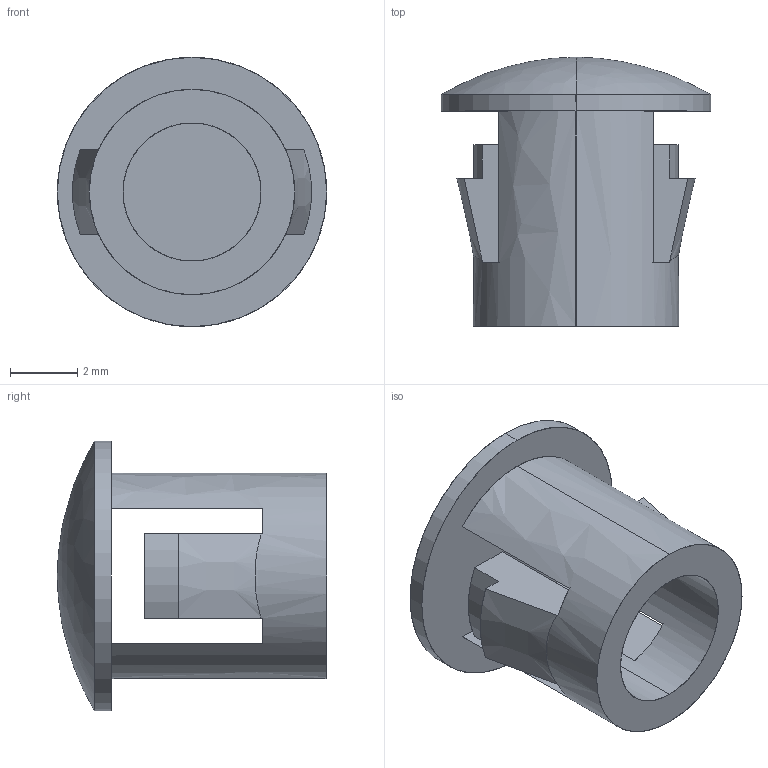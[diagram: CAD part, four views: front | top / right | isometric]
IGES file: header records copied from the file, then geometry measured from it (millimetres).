
Start section: SolidWorks IGES FILE using analytic representation for surfaces
Global section: file name: \\Ls-wvld1d\share\シブタニ\3D設計\ゴム\EBHP-1\EBHP-1.IGS; native system: SolidWorks 2003 by SolidWorks Corporation; preprocessor: Version 5.3; author: user; date: 130803.133430; units: millimetre
Bounding box: 8 x 8 x 8 mm (x, y, z)
Surface area: 343.4 mm2 (no closed solid volume)
Topology: 0 solids, 0 shells, 30 faces, 336 edges, 334 vertices
Faces by surface type: bspline 22, revolution 8
